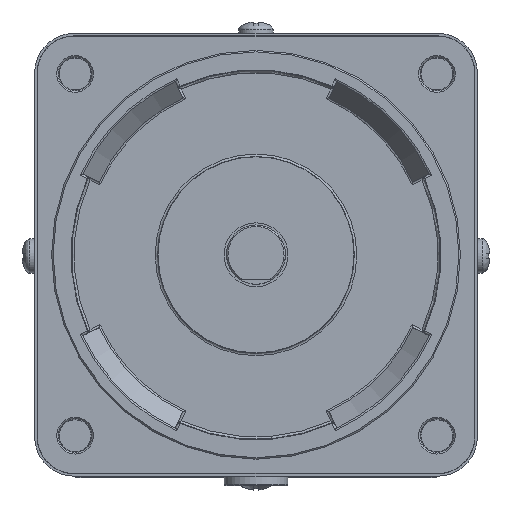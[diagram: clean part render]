
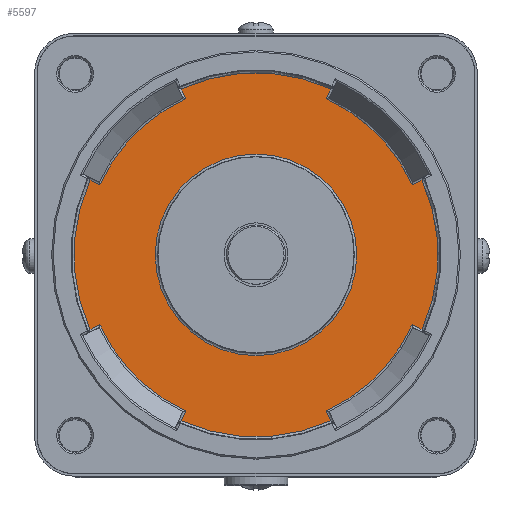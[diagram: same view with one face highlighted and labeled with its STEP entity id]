
A CAD part, top view. The second image highlights one B-rep face of the part: STEP entity #5597.
In plain terms, the highlighted planar face has unit normal (0, 0, 1).
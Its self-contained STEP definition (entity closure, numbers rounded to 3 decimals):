
#102 = CARTESIAN_POINT ( 'NONE',  ( 0.453, -0.211, -2.5 ) ) ;
#178 = DIRECTION ( 'NONE',  ( 0., 0., 1. ) ) ;
#441 = DIRECTION ( 'NONE',  ( 1., 0., 0. ) ) ;
#460 = DIRECTION ( 'NONE',  ( -0.423, 0.906, 0. ) ) ;
#517 = VERTEX_POINT ( 'NONE', #2294 ) ;
#606 = CARTESIAN_POINT ( 'NONE',  ( 31.725, 14.242, -2.5 ) ) ;
#734 = EDGE_CURVE ( 'NONE', #10390, #10390, #6248, .T. ) ;
#900 = EDGE_CURVE ( 'NONE', #3014, #2715, #8012, .T. ) ;
#967 = ORIENTED_EDGE ( 'NONE', *, *, #11399, .T. ) ;
#1084 = CARTESIAN_POINT ( 'NONE',  ( 15.188, 33.753, -2.5 ) ) ;
#1088 = CIRCLE ( 'NONE', #4945, 37.013 ) ;
#1141 = CARTESIAN_POINT ( 'NONE',  ( -14.242, -31.725, -2.5 ) ) ;
#1247 = VERTEX_POINT ( 'NONE', #3883 ) ;
#1278 = DIRECTION ( 'NONE',  ( 1., 0., 0. ) ) ;
#1354 = CARTESIAN_POINT ( 'NONE',  ( 0., 0., -2.5 ) ) ;
#1492 = FACE_OUTER_BOUND ( 'NONE', #4794, .T. ) ;
#1698 = AXIS2_PLACEMENT_3D ( 'NONE', #14014, #6674, #12094 ) ;
#1767 = VECTOR ( 'NONE', #7649, 1000. ) ;
#1859 = ORIENTED_EDGE ( 'NONE', *, *, #9945, .T. ) ;
#1924 = VERTEX_POINT ( 'NONE', #1141 ) ;
#2144 = CIRCLE ( 'NONE', #5807, 37.013 ) ;
#2272 = VERTEX_POINT ( 'NONE', #13420 ) ;
#2294 = CARTESIAN_POINT ( 'NONE',  ( -14.242, 31.725, -2.5 ) ) ;
#2489 = PLANE ( 'NONE',  #10161 ) ;
#2491 = DIRECTION ( 'NONE',  ( 0., 0., 1. ) ) ;
#2613 = CARTESIAN_POINT ( 'NONE',  ( 31.932, 14.338, -2.5 ) ) ;
#2661 = VECTOR ( 'NONE', #13840, 1000. ) ;
#2715 = VERTEX_POINT ( 'NONE', #1084 ) ;
#2828 = CARTESIAN_POINT ( 'NONE',  ( 14.242, 31.725, -2.5 ) ) ;
#3014 = VERTEX_POINT ( 'NONE', #2828 ) ;
#3124 = CIRCLE ( 'NONE', #11284, 34.775 ) ;
#3474 = CIRCLE ( 'NONE', #4618, 34.775 ) ;
#3665 = CARTESIAN_POINT ( 'NONE',  ( 20.491, 0., -2.5 ) ) ;
#3666 = LINE ( 'NONE', #4523, #13767 ) ;
#3667 = CARTESIAN_POINT ( 'NONE',  ( 0., 0., -2.5 ) ) ;
#3740 = CARTESIAN_POINT ( 'NONE',  ( -0.453, 0.211, -2.5 ) ) ;
#3771 = EDGE_CURVE ( 'NONE', #11929, #6383, #9045, .T. ) ;
#3883 = CARTESIAN_POINT ( 'NONE',  ( 14.242, -31.725, -2.5 ) ) ;
#3970 = ORIENTED_EDGE ( 'NONE', *, *, #7379, .T. ) ;
#4057 = VERTEX_POINT ( 'NONE', #8007 ) ;
#4105 = VERTEX_POINT ( 'NONE', #12234 ) ;
#4126 = EDGE_LOOP ( 'NONE', ( #7801 ) ) ;
#4428 = ORIENTED_EDGE ( 'NONE', *, *, #5605, .T. ) ;
#4444 = ORIENTED_EDGE ( 'NONE', *, *, #11192, .T. ) ;
#4523 = CARTESIAN_POINT ( 'NONE',  ( 14.338, -31.932, -2.5 ) ) ;
#4529 = EDGE_CURVE ( 'NONE', #7195, #4105, #8360, .T. ) ;
#4618 = AXIS2_PLACEMENT_3D ( 'NONE', #9580, #2491, #1278 ) ;
#4673 = CARTESIAN_POINT ( 'NONE',  ( -0.211, -0.453, -2.5 ) ) ;
#4794 = EDGE_LOOP ( 'NONE', ( #4444, #6018, #13215, #5239, #11034, #967, #10711, #4428, #11179, #7075, #11760, #13870, #1859, #5288, #10793, #3970 ) ) ;
#4945 = AXIS2_PLACEMENT_3D ( 'NONE', #10586, #9594, #12695 ) ;
#5221 = EDGE_CURVE ( 'NONE', #12493, #3014, #3124, .T. ) ;
#5239 = ORIENTED_EDGE ( 'NONE', *, *, #5221, .T. ) ;
#5288 = ORIENTED_EDGE ( 'NONE', *, *, #6536, .T. ) ;
#5304 = CARTESIAN_POINT ( 'NONE',  ( 0., 0., -2.5 ) ) ;
#5462 = LINE ( 'NONE', #5530, #9384 ) ;
#5530 = CARTESIAN_POINT ( 'NONE',  ( 0.211, 0.453, -2.5 ) ) ;
#5597 = ADVANCED_FACE ( 'NONE', ( #1492, #9155 ), #2489, .T. ) ;
#5605 = EDGE_CURVE ( 'NONE', #517, #13819, #13739, .T. ) ;
#5807 = AXIS2_PLACEMENT_3D ( 'NONE', #5304, #9618, #8566 ) ;
#5830 = DIRECTION ( 'NONE',  ( 1., 0., 0. ) ) ;
#5886 = AXIS2_PLACEMENT_3D ( 'NONE', #6893, #13685, #7959 ) ;
#5897 = CARTESIAN_POINT ( 'NONE',  ( -31.725, 14.242, -2.5 ) ) ;
#5912 = DIRECTION ( 'NONE',  ( 0., 0., 1. ) ) ;
#6018 = ORIENTED_EDGE ( 'NONE', *, *, #4529, .T. ) ;
#6213 = EDGE_CURVE ( 'NONE', #10936, #517, #9538, .T. ) ;
#6248 = CIRCLE ( 'NONE', #1698, 20.491 ) ;
#6265 = CARTESIAN_POINT ( 'NONE',  ( -31.725, -14.242, -2.5 ) ) ;
#6383 = VERTEX_POINT ( 'NONE', #10192 ) ;
#6536 = EDGE_CURVE ( 'NONE', #4057, #13477, #1088, .T. ) ;
#6640 = EDGE_CURVE ( 'NONE', #6383, #10595, #11091, .T. ) ;
#6674 = DIRECTION ( 'NONE',  ( 0., 0., -1. ) ) ;
#6766 = CARTESIAN_POINT ( 'NONE',  ( 0., 0., -2.5 ) ) ;
#6839 = DIRECTION ( 'NONE',  ( 0., 0., 1. ) ) ;
#6857 = DIRECTION ( 'NONE',  ( 0.906, 0.423, 0. ) ) ;
#6893 = CARTESIAN_POINT ( 'NONE',  ( 0., 0., -2.5 ) ) ;
#6901 = DIRECTION ( 'NONE',  ( 1., 0., 0. ) ) ;
#7019 = VECTOR ( 'NONE', #11799, 1000. ) ;
#7052 = CARTESIAN_POINT ( 'NONE',  ( -33.753, 15.188, -2.5 ) ) ;
#7075 = ORIENTED_EDGE ( 'NONE', *, *, #3771, .T. ) ;
#7195 = VERTEX_POINT ( 'NONE', #10476 ) ;
#7379 = EDGE_CURVE ( 'NONE', #1247, #2272, #8547, .T. ) ;
#7563 = CARTESIAN_POINT ( 'NONE',  ( -14.338, 31.932, -2.5 ) ) ;
#7649 = DIRECTION ( 'NONE',  ( -0.906, 0.423, 0. ) ) ;
#7667 = AXIS2_PLACEMENT_3D ( 'NONE', #1354, #5912, #8031 ) ;
#7763 = CARTESIAN_POINT ( 'NONE',  ( -31.932, -14.338, -2.5 ) ) ;
#7799 = DIRECTION ( 'NONE',  ( 0.906, -0.423, 0. ) ) ;
#7801 = ORIENTED_EDGE ( 'NONE', *, *, #734, .T. ) ;
#7805 = CARTESIAN_POINT ( 'NONE',  ( 0., 0., -2.5 ) ) ;
#7959 = DIRECTION ( 'NONE',  ( 1., 0., 0. ) ) ;
#8007 = CARTESIAN_POINT ( 'NONE',  ( -15.188, -33.753, -2.5 ) ) ;
#8012 = LINE ( 'NONE', #3740, #12120 ) ;
#8031 = DIRECTION ( 'NONE',  ( 1., 0., 0. ) ) ;
#8360 = CIRCLE ( 'NONE', #11970, 37.013 ) ;
#8428 = CARTESIAN_POINT ( 'NONE',  ( 15.188, -33.753, -2.5 ) ) ;
#8547 = CIRCLE ( 'NONE', #12591, 34.775 ) ;
#8566 = DIRECTION ( 'NONE',  ( 1., 0., 0. ) ) ;
#8759 = DIRECTION ( 'NONE',  ( 1., 0., 0. ) ) ;
#8995 = LINE ( 'NONE', #4673, #1767 ) ;
#9029 = VECTOR ( 'NONE', #6857, 1000. ) ;
#9045 = CIRCLE ( 'NONE', #5886, 37.013 ) ;
#9094 = DIRECTION ( 'NONE',  ( -0.906, -0.423, 0. ) ) ;
#9155 = FACE_BOUND ( 'NONE', #4126, .T. ) ;
#9384 = VECTOR ( 'NONE', #7799, 1000. ) ;
#9538 = LINE ( 'NONE', #7563, #2661 ) ;
#9580 = CARTESIAN_POINT ( 'NONE',  ( 0., 0., -2.5 ) ) ;
#9594 = DIRECTION ( 'NONE',  ( 0., 0., 1. ) ) ;
#9618 = DIRECTION ( 'NONE',  ( 0., 0., 1. ) ) ;
#9637 = EDGE_CURVE ( 'NONE', #10595, #1924, #3474, .T. ) ;
#9711 = VECTOR ( 'NONE', #9094, 1000. ) ;
#9826 = LINE ( 'NONE', #102, #7019 ) ;
#9945 = EDGE_CURVE ( 'NONE', #1924, #4057, #9826, .T. ) ;
#10069 = EDGE_CURVE ( 'NONE', #13477, #1247, #3666, .T. ) ;
#10161 = AXIS2_PLACEMENT_3D ( 'NONE', #6766, #6839, #6901 ) ;
#10192 = CARTESIAN_POINT ( 'NONE',  ( -33.753, -15.188, -2.5 ) ) ;
#10390 = VERTEX_POINT ( 'NONE', #3665 ) ;
#10476 = CARTESIAN_POINT ( 'NONE',  ( 33.753, -15.188, -2.5 ) ) ;
#10586 = CARTESIAN_POINT ( 'NONE',  ( 0., 0., -2.5 ) ) ;
#10595 = VERTEX_POINT ( 'NONE', #6265 ) ;
#10711 = ORIENTED_EDGE ( 'NONE', *, *, #6213, .T. ) ;
#10793 = ORIENTED_EDGE ( 'NONE', *, *, #10069, .T. ) ;
#10936 = VERTEX_POINT ( 'NONE', #11345 ) ;
#11034 = ORIENTED_EDGE ( 'NONE', *, *, #900, .T. ) ;
#11091 = LINE ( 'NONE', #7763, #9029 ) ;
#11179 = ORIENTED_EDGE ( 'NONE', *, *, #12429, .T. ) ;
#11192 = EDGE_CURVE ( 'NONE', #2272, #7195, #5462, .T. ) ;
#11284 = AXIS2_PLACEMENT_3D ( 'NONE', #12208, #13184, #441 ) ;
#11345 = CARTESIAN_POINT ( 'NONE',  ( -15.188, 33.753, -2.5 ) ) ;
#11399 = EDGE_CURVE ( 'NONE', #2715, #10936, #2144, .T. ) ;
#11760 = ORIENTED_EDGE ( 'NONE', *, *, #6640, .T. ) ;
#11799 = DIRECTION ( 'NONE',  ( -0.423, -0.906, 0. ) ) ;
#11929 = VERTEX_POINT ( 'NONE', #7052 ) ;
#11970 = AXIS2_PLACEMENT_3D ( 'NONE', #7805, #13381, #5830 ) ;
#12094 = DIRECTION ( 'NONE',  ( 1., 0., 0. ) ) ;
#12120 = VECTOR ( 'NONE', #12365, 1000. ) ;
#12208 = CARTESIAN_POINT ( 'NONE',  ( 0., 0., -2.5 ) ) ;
#12234 = CARTESIAN_POINT ( 'NONE',  ( 33.753, 15.188, -2.5 ) ) ;
#12307 = EDGE_CURVE ( 'NONE', #4105, #12493, #12584, .T. ) ;
#12365 = DIRECTION ( 'NONE',  ( 0.423, 0.906, 0. ) ) ;
#12429 = EDGE_CURVE ( 'NONE', #13819, #11929, #8995, .T. ) ;
#12493 = VERTEX_POINT ( 'NONE', #606 ) ;
#12584 = LINE ( 'NONE', #2613, #9711 ) ;
#12591 = AXIS2_PLACEMENT_3D ( 'NONE', #3667, #178, #8759 ) ;
#12695 = DIRECTION ( 'NONE',  ( 1., 0., 0. ) ) ;
#13184 = DIRECTION ( 'NONE',  ( 0., 0., 1. ) ) ;
#13215 = ORIENTED_EDGE ( 'NONE', *, *, #12307, .T. ) ;
#13381 = DIRECTION ( 'NONE',  ( 0., 0., 1. ) ) ;
#13420 = CARTESIAN_POINT ( 'NONE',  ( 31.725, -14.242, -2.5 ) ) ;
#13477 = VERTEX_POINT ( 'NONE', #8428 ) ;
#13685 = DIRECTION ( 'NONE',  ( 0., 0., 1. ) ) ;
#13739 = CIRCLE ( 'NONE', #7667, 34.775 ) ;
#13767 = VECTOR ( 'NONE', #460, 1000. ) ;
#13819 = VERTEX_POINT ( 'NONE', #5897 ) ;
#13840 = DIRECTION ( 'NONE',  ( 0.423, -0.906, 0. ) ) ;
#13870 = ORIENTED_EDGE ( 'NONE', *, *, #9637, .T. ) ;
#14014 = CARTESIAN_POINT ( 'NONE',  ( 0., 0., -2.5 ) ) ;
